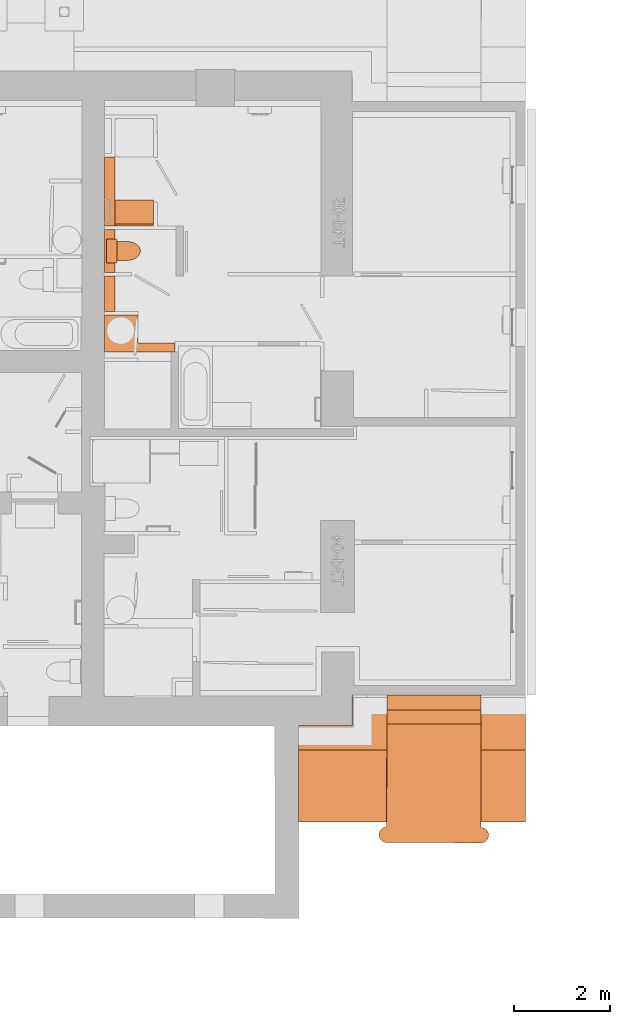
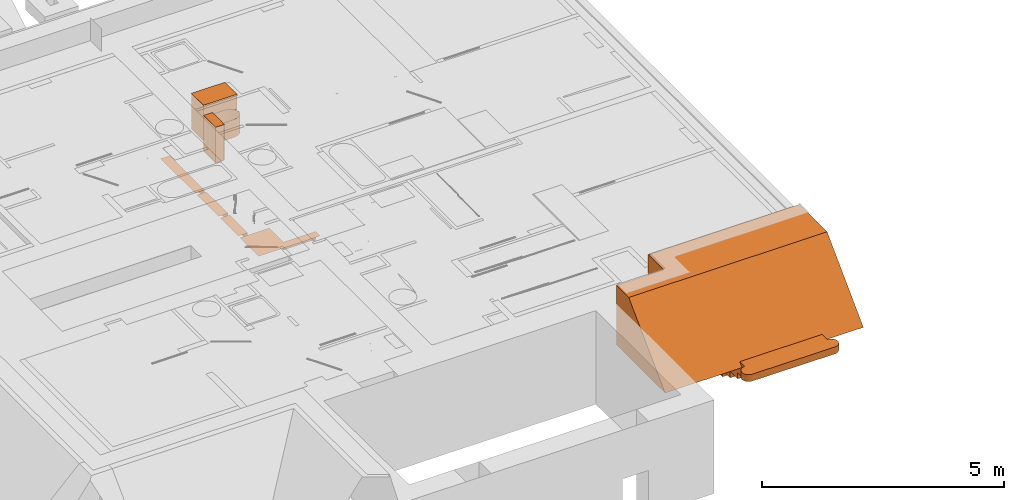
# Not in any storey, part 16 of 22: 5 proxies.
"""IFC4 model written with IfcOpenShell, lengths in metres."""

import ifcopenshell
import ifcopenshell.guid

model = None  # the IFC model being written
_history = None  # IfcOwnerHistory: only IFC2X3 demands one
_inside = {}  # id of a spatial element -> (the spatial element, [elements in it])
_under = {}  # id of a project, library or spatial element -> (it, [spatial elements below it])
_declared = {}  # id of a project -> (the project, [libraries it declares])
_typed = {}  # id of a type object -> (the type object, [elements of that type])
_made_of = {}  # id of a material, layer set ... -> (it, [elements and type objects made of it])


def new_model(schema):
    """Start an empty IFC model of exactly this schema.

    Asked for "IFC4X3", IfcOpenShell would pick the latest addendum, in which some entities
    have other attributes; the version numbers below select the first issue.
    IFC2X3 requires an IfcOwnerHistory on every rooted entity: one is made here for all.
    """
    global model, _history
    if schema == "IFC4X3":
        model = ifcopenshell.file(schema_version=(4, 3, 0, 0))
    else:
        model = ifcopenshell.file(schema=schema)
    _inside.clear()
    _under.clear()
    _declared.clear()
    _typed.clear()
    _made_of.clear()
    _history = None
    if model.schema == "IFC2X3":
        org = make("IfcOrganization", Name="unknown")
        user = make(
            "IfcPersonAndOrganization",
            ThePerson=make("IfcPerson", FamilyName="unknown"),
            TheOrganization=org,
        )
        app = make(
            "IfcApplication",
            ApplicationDeveloper=org,
            Version="unknown",
            ApplicationFullName="unknown",
            ApplicationIdentifier="unknown",
        )
        _history = make(
            "IfcOwnerHistory",
            OwningUser=user,
            OwningApplication=app,
            ChangeAction="ADDED",
            CreationDate=0,
        )
    return model


def make(cls, **values):
    """One entity of the class cls with the attributes given. An attribute that is None is left unset."""
    return model.create_entity(
        cls, **{name: value for name, value in values.items() if value is not None}
    )


def rooted(cls, **values):
    """An entity with a GlobalId (a new one), such as an element, a storey or a relation."""
    return make(cls, GlobalId=ifcopenshell.guid.new(), OwnerHistory=_history, **values)


def si_unit(unit_type, name, prefix=None):
    """IfcSIUnit, for example si_unit("LENGTHUNIT", "METRE", prefix="MILLI")."""
    return make("IfcSIUnit", UnitType=unit_type, Prefix=prefix, Name=name)


def assignment(units):
    """IfcUnitAssignment: the units of a project."""
    return None if units is None else make("IfcUnitAssignment", Units=units)


def point(xyz):
    """IfcCartesianPoint."""
    return None if xyz is None else make("IfcCartesianPoint", Coordinates=xyz)


def direction(xyz):
    """IfcDirection."""
    return None if xyz is None else make("IfcDirection", DirectionRatios=xyz)


def frame(location, z_axis=None, x_axis=None):
    """IfcAxis2Placement3D, a coordinate frame: its origin and axes. An axis left out is left unset."""
    return make(
        "IfcAxis2Placement3D",
        Location=point(location),
        Axis=direction(z_axis),
        RefDirection=direction(x_axis),
    )


def origin_with_axes():
    """The frame at (0, 0, 0) with the z axis (0, 0, 1) and the x axis (1, 0, 0) written out."""
    return frame((0.0, 0.0, 0.0), z_axis=(0.0, 0.0, 1.0), x_axis=(1.0, 0.0, 0.0))


def place(relative_to, where):
    """IfcLocalPlacement: puts the frame where relative to a parent placement (None: the world)."""
    return make(
        "IfcLocalPlacement", PlacementRelTo=relative_to, RelativePlacement=where
    )


def context(
    kind, dimensions, precision=None, world=None, true_north=None, identifier=None
):
    """IfcGeometricRepresentationContext, for example the 3D "Model" context."""
    return make(
        "IfcGeometricRepresentationContext",
        ContextIdentifier=identifier,
        ContextType=kind,
        CoordinateSpaceDimension=dimensions,
        Precision=precision,
        WorldCoordinateSystem=world,
        TrueNorth=true_north,
    )


def subcontext(parent, identifier, kind, view, scale=None):
    """IfcGeometricRepresentationSubContext, for example "Body" below "Model"."""
    return make(
        "IfcGeometricRepresentationSubContext",
        ContextIdentifier=identifier,
        ContextType=kind,
        ParentContext=parent,
        TargetScale=scale,
        TargetView=view,
    )


def project(units=None, contexts=None):
    """IfcProject with its units and contexts."""
    return rooted(
        "IfcProject",
        Name="project",
        RepresentationContexts=contexts,
        UnitsInContext=assignment(units),
    )


def faces_of(points, faces, orient=None, outer=None):
    """IfcFace entities. A face is a list of loops; a loop is a list of indices into points, from 0.

    orient and outer hold one flag for each loop. By default every Orientation is true, the
    first loop of a face is its IfcFaceOuterBound and the others are IfcFaceBound.
    """
    made = []
    for i, loops in enumerate(faces):
        bounds = []
        for j, loop in enumerate(loops):
            is_outer = j == 0 if outer is None else outer[i][j]
            bounds.append(
                make(
                    "IfcFaceOuterBound" if is_outer else "IfcFaceBound",
                    Bound=make("IfcPolyLoop", Polygon=[points[k] for k in loop]),
                    Orientation=True if orient is None else orient[i][j],
                )
            )
        made.append(make("IfcFace", Bounds=bounds))
    return made


def faceted_brep(points, faces, orient=None, outer=None, voids=None):
    """IfcFacetedBrep: a solid bounded by flat faces; with voids (closed shells), ...WithVoids."""
    shared = [point(p) for p in points]
    hull = make("IfcClosedShell", CfsFaces=faces_of(shared, faces, orient, outer))
    if voids is None:
        return make("IfcFacetedBrep", Outer=hull)
    return make(
        "IfcFacetedBrepWithVoids",
        Outer=hull,
        Voids=[
            make(cls, CfsFaces=faces_of(shared, fs, o, b)) for cls, fs, o, b in voids
        ],
    )


def shape(context_of_items, identifier, shape_type, items):
    """IfcShapeRepresentation: the items that make up one representation, for example the "Body"."""
    return make(
        "IfcShapeRepresentation",
        ContextOfItems=context_of_items,
        RepresentationIdentifier=identifier,
        RepresentationType=shape_type,
        Items=items,
    )


def made_of(thing, what):
    """Note that an element or type object is made of a material, layer set ...; save() writes the relation."""
    if what is not None:
        _made_of.setdefault(what.id(), (what, []))[1].append(thing)
    return thing


def element(
    cls,
    number,
    at=None,
    inside=None,
    cuts=None,
    type_object=None,
    material=None,
    context=None,
    identifier="Body",
    shape_type=None,
    held_by="IfcProductDefinitionShape",
    body=None,
    shapes=None,
    **own,
):
    """One element of the class cls, such as IfcWall. Its Tag is "e" and its number.

    at: its placement. inside: the storey or other place that contains it. cuts: it is an
    opening in that element (IfcRelVoidsElement). A single representation is given by context,
    identifier, shape_type and body (its items); several are given by shapes. held_by: the class
    of the entity that holds the representations. save() writes the other relations.
    """
    e = rooted(cls, Tag="e%d" % number, ObjectPlacement=at, **own)
    if body is not None:
        shapes = [shape(context, identifier, shape_type, body)]
    if shapes is not None:
        e.Representation = make(held_by, Representations=shapes)
    if inside is not None:
        _inside.setdefault(inside.id(), (inside, []))[1].append(e)
    if cuts is not None:
        rooted(
            "IfcRelVoidsElement", RelatingBuildingElement=cuts, RelatedOpeningElement=e
        )
    if type_object is not None:
        _typed.setdefault(type_object.id(), (type_object, []))[1].append(e)
    return made_of(e, material)


def aggregate(whole, parts):
    """IfcRelAggregates: a whole, such as a stair, and the parts it consists of."""
    return rooted("IfcRelAggregates", RelatingObject=whole, RelatedObjects=parts)


def save(model, path):
    """Write the relations noted so far, then the file.

    IfcRelAggregates (storeys below a building ...), IfcRelContainedInSpatialStructure (elements
    in a storey), IfcRelDefinesByType, IfcRelAssociatesMaterial and IfcRelDeclares: one each for
    every whole, place, type object, material and project.
    """
    for whole, parts in _under.values():
        aggregate(whole, parts)
    for where, things in _inside.values():
        rooted(
            "IfcRelContainedInSpatialStructure",
            RelatedElements=things,
            RelatingStructure=where,
        )
    for kind, things in _typed.values():
        rooted("IfcRelDefinesByType", RelatedObjects=things, RelatingType=kind)
    for what, things in _made_of.values():
        rooted("IfcRelAssociatesMaterial", RelatedObjects=things, RelatingMaterial=what)
    for by, libraries in _declared.values():
        rooted("IfcRelDeclares", RelatingContext=by, RelatedDefinitions=libraries)
    model.write(path)


model = new_model("IFC4")

# Units and contexts
model_context = context("Model", 3, precision=1e-05, world=origin_with_axes(), true_north=direction((1.0, 0.0)))
body_context = subcontext(model_context, "Body", "Model", "MODEL_VIEW")
ifc_project = project(units=[si_unit("LENGTHUNIT", "METRE"), si_unit("AREAUNIT", "SQUARE_METRE"), si_unit("VOLUMEUNIT", "CUBIC_METRE"), si_unit("MASSUNIT", "GRAM", prefix="KILO"), si_unit("TIMEUNIT", "SECOND"), si_unit("PLANEANGLEUNIT", "RADIAN"), si_unit("SOLIDANGLEUNIT", "STERADIAN")], contexts=[model_context])

# Proxies
placement = place(None, origin_with_axes())
element("IfcBuildingElementProxy", 1, at=placement, Name="Undefined", PredefinedType="NOTDEFINED", context=body_context, shape_type="Brep", body=[
    faceted_brep([(148.571793, 26.918678, 0.2), (148.793121, 26.918648, 0.2), (148.793121, 28.349401, 0.2), (148.571793, 28.349398, 0.2), (148.793121, 26.918648, 0.0), (148.793121, 28.349401, 0.0), (148.793106, 25.951332, 0.0), (148.793121, 26.844675, 0.0), (148.793121, 26.844675, 0.2), (148.793106, 25.951332, 0.2), (148.569702, 25.951332, 0.2), (148.569702, 26.844677, 0.2), (148.793121, 25.138596, 0.0), (148.793121, 25.877333, 0.0), (148.793121, 25.877333, 0.2), (148.793121, 25.138596, 0.2), (148.568497, 25.138597, 0.2), (148.568497, 25.877333, 0.2), (149.267227, 24.480442, 0.0), (149.267227, 25.064596, 0.0), (149.267227, 25.064596, 0.2), (149.267227, 24.480442, 0.2), (150.039825, 24.480442, 0.2), (148.569702, 25.064596, 0.2), (148.569702, 24.294191, 0.2), (150.039825, 24.294191, 0.2), (150.039825, 24.480442, 0.0)], [[[0, 1, 2, 3]], [[4, 5, 2, 1]], [[6, 7, 8, 9]], [[10, 9, 8, 11]], [[12, 13, 14, 15]], [[16, 15, 14, 17]], [[18, 19, 20, 21]], [[22, 21, 20, 23, 24, 25]], [[26, 18, 21, 22]]]),
])
element("IfcBuildingElementProxy", 2, at=placement, Name="Bloc WC", PredefinedType="NOTDEFINED", context=body_context, shape_type="AdvancedBrep", body=[
    faceted_brep([(148.610597, 26.646215, 2.31), (148.610597, 26.148244, 2.31), (148.610597, 26.146212, 2.31), (148.779578, 26.146206, 2.31), (148.81158, 26.146212, 2.31), (148.81158, 26.146382, 2.31), (148.812675, 26.146501, 2.31), (148.81376, 26.146686, 2.31), (148.814832, 26.146937, 2.31), (148.815887, 26.147253, 2.31), (148.816921, 26.147632, 2.31), (148.81793, 26.148074, 2.31), (148.818927, 26.148567, 2.31), (148.819896, 26.149113, 2.31), (148.820834, 26.149711, 2.31), (148.821737, 26.150359, 2.31), (148.822604, 26.151056, 2.31), (148.823432, 26.151799, 2.31), (148.824205, 26.152574, 2.31), (148.824931, 26.153393, 2.31), (148.825608, 26.154253, 2.31), (148.826235, 26.155151, 2.31), (148.826808, 26.156084, 2.31), (148.827327, 26.157048, 2.31), (148.82789, 26.158227, 2.31), (148.828377, 26.15944, 2.31), (148.828785, 26.160681, 2.31), (148.829112, 26.161946, 2.31), (148.829359, 26.163229, 2.31), (148.829613, 26.163229, 2.31), (148.829613, 26.166278, 2.31), (148.829613, 26.201241, 2.31), (148.829613, 26.590676, 2.31), (148.82961, 26.626233, 2.31), (148.82958, 26.627461, 2.31), (148.829472, 26.628684, 2.31), (148.829284, 26.629898, 2.31), (148.829019, 26.631097, 2.31), (148.828678, 26.632277, 2.31), (148.828261, 26.633432, 2.31), (148.827791, 26.634554, 2.31), (148.827252, 26.635645, 2.31), (148.826646, 26.6367, 2.31), (148.825974, 26.637715, 2.31), (148.82524, 26.638685, 2.31), (148.824446, 26.639607, 2.31), (148.823595, 26.640502, 2.31), (148.82269, 26.641342, 2.31), (148.821736, 26.642125, 2.31), (148.820735, 26.642848, 2.31), (148.819691, 26.643508, 2.31), (148.818608, 26.644099, 2.31), (148.817494, 26.644611, 2.31), (148.816352, 26.645056, 2.31), (148.815185, 26.645431, 2.31), (148.813998, 26.645735, 2.31), (148.812795, 26.645968, 2.31), (148.81158, 26.646215, 2.31), (148.779578, 26.646217, 2.31), (148.826988, 26.588475, 2.31), (148.818522, 26.588475, 2.31), (148.818522, 26.596941, 2.31), (148.818522, 26.613872, 2.31), (148.818522, 26.62234, 2.31), (148.826988, 26.62234, 2.31), (148.818522, 26.207506, 2.31), (148.826988, 26.207506, 2.31), (148.826988, 26.165176, 2.31), (148.818522, 26.165176, 2.31), (148.818522, 26.173641, 2.31), (148.818522, 26.19904, 2.31), (149.036172, 26.201647, 2.31), (149.051929, 26.201241, 2.31), (149.038797, 26.201494, 2.31), (148.610597, 26.148244, 1.41), (148.610597, 26.646215, 1.41), (148.81158, 26.646215, 1.41), (148.812795, 26.645968, 1.41), (148.813998, 26.645735, 1.41), (148.815185, 26.645431, 1.41), (148.816352, 26.645056, 1.41), (148.817494, 26.644611, 1.41), (148.818608, 26.644099, 1.41), (148.819691, 26.643508, 1.41), (148.820735, 26.642848, 1.41), (148.821736, 26.642125, 1.41), (148.82269, 26.641342, 1.41), (148.823595, 26.640502, 1.41), (148.824446, 26.639607, 1.41), (148.82524, 26.638685, 1.41), (148.825974, 26.637715, 1.41), (148.826646, 26.6367, 1.41), (148.827252, 26.635645, 1.41), (148.827791, 26.634554, 1.41), (148.828261, 26.633432, 1.41), (148.828678, 26.632277, 1.41), (148.829019, 26.631097, 1.41), (148.829284, 26.629898, 1.41), (148.829472, 26.628684, 1.41), (148.82958, 26.627461, 1.41), (148.82961, 26.626233, 1.41), (148.829613, 26.166278, 1.41), (148.829613, 26.163229, 1.41), (148.829359, 26.163229, 1.41), (148.829112, 26.161946, 1.41), (148.828785, 26.160681, 1.41), (148.828377, 26.15944, 1.41), (148.82789, 26.158227, 1.41), (148.827327, 26.157048, 1.41), (148.826808, 26.156084, 1.41), (148.826235, 26.155151, 1.41), (148.825608, 26.154253, 1.41), (148.824931, 26.153393, 1.41), (148.824205, 26.152574, 1.41), (148.823432, 26.151799, 1.41), (148.822604, 26.151056, 1.41), (148.821737, 26.150359, 1.41), (148.820834, 26.149711, 1.41), (148.819896, 26.149113, 1.41), (148.818927, 26.148567, 1.41), (148.81793, 26.148074, 1.41), (148.816921, 26.147632, 1.41), (148.815887, 26.147253, 1.41), (148.814832, 26.146937, 1.41), (148.81376, 26.146686, 1.41), (148.812675, 26.146501, 1.41), (148.81158, 26.146382, 1.41), (148.81158, 26.146212, 1.41), (148.610597, 26.146212, 1.41), (149.035433, 26.20169, 1.86), (149.03443, 26.201748, 1.86), (149.025685, 26.202257, 1.86), (149.025685, 26.201241, 1.86), (148.829613, 26.201241, 1.86), (148.829613, 26.590676, 1.86), (149.038299, 26.591186, 1.86), (149.038409, 26.591186, 1.86), (149.038514, 26.591186, 1.86), (149.038616, 26.591186, 1.86), (149.038814, 26.591186, 1.86), (149.039015, 26.591186, 1.86), (149.03912, 26.591186, 1.86), (149.03923, 26.591186, 1.86), (149.053285, 26.591186, 1.86), (149.070785, 26.59076, 1.86), (149.088241, 26.589436, 1.86), (149.105605, 26.587212, 1.86), (149.123522, 26.584098, 1.86), (149.141174, 26.580083, 1.86), (149.158599, 26.575178, 1.86), (149.169463, 26.571925, 1.86), (149.180132, 26.568082, 1.86), (149.190576, 26.563663, 1.86), (149.200763, 26.558679, 1.86), (149.201608, 26.558251, 1.86), (149.215329, 26.551153, 1.86), (149.228582, 26.543213, 1.86), (149.241314, 26.534463, 1.86), (149.241568, 26.534209, 1.86), (149.250346, 26.527497, 1.86), (149.258738, 26.520309, 1.86), (149.266715, 26.512663, 1.86), (149.274251, 26.504582, 1.86), (149.274585, 26.504239, 1.86), (149.281809, 26.495557, 1.86), (149.288546, 26.486492, 1.86), (149.294779, 26.477073, 1.86), (149.300489, 26.467328, 1.86), (149.300575, 26.467244, 1.86), (149.300829, 26.466906, 1.86), (149.303892, 26.46164, 1.86), (149.306657, 26.456212, 1.86), (149.309112, 26.450638, 1.86), (149.31125, 26.444934, 1.86), (149.313064, 26.439119, 1.86), (149.314548, 26.433212, 1.86), (149.316331, 26.426008, 1.86), (149.317728, 26.418719, 1.86), (149.31873, 26.411366, 1.86), (149.319335, 26.40397, 1.86), (149.319541, 26.396551, 1.86), (149.319539, 26.395873, 1.86), (149.319335, 26.388455, 1.86), (149.31873, 26.381059, 1.86), (149.317728, 26.373707, 1.86), (149.316331, 26.366419, 1.86), (149.314543, 26.359216, 1.86), (149.313062, 26.353321, 1.86), (149.311249, 26.347519, 1.86), (149.309112, 26.341829, 1.86), (149.306658, 26.336268, 1.86), (149.303895, 26.330854, 1.86), (149.30083, 26.325605, 1.86), (149.300575, 26.325267, 1.86), (149.300491, 26.325099, 1.86), (149.294789, 26.315369, 1.86), (149.288561, 26.305966, 1.86), (149.281821, 26.296924, 1.86), (149.274589, 26.288269, 1.86), (149.274247, 26.287932, 1.86), (149.266714, 26.279829, 1.86), (149.258739, 26.27216, 1.86), (149.250348, 26.264948, 1.86), (149.241567, 26.258217, 1.86), (149.241314, 26.258048, 1.86), (149.228594, 26.249279, 1.86), (149.215343, 26.241334, 1.86), (149.201611, 26.234253, 1.86), (149.200761, 26.233835, 1.86), (149.190576, 26.22883, 1.86), (149.180134, 26.224386, 1.86), (149.169465, 26.220519, 1.86), (149.158601, 26.217241, 1.86), (149.141173, 26.212369, 1.86), (149.12352, 26.208387, 1.86), (149.105689, 26.205304, 1.86), (149.105604, 26.20522, 1.86), (149.088238, 26.203021, 1.86), (149.070783, 26.201692, 1.86), (149.053285, 26.201238, 1.86), (149.052565, 26.20169, 1.86), (149.052606, 26.201241, 1.86), (149.051929, 26.201241, 1.86), (149.036172, 26.201647, 1.86), (149.035433, 26.20169, 2.31), (149.03443, 26.20169, 2.31), (149.025685, 26.202257, 2.31), (149.025685, 26.201241, 2.31), (149.038299, 26.591186, 2.31), (149.038409, 26.591186, 2.31), (149.038514, 26.591186, 2.31), (149.038616, 26.591186, 2.31), (149.038814, 26.591186, 2.31), (149.039015, 26.591186, 2.31), (149.03912, 26.591186, 2.31), (149.03923, 26.591186, 2.31), (149.051929, 26.591186, 2.31), (149.052606, 26.591186, 2.31), (149.053285, 26.591186, 2.31), (149.070785, 26.59076, 2.31), (149.088241, 26.589436, 2.31), (149.105605, 26.587212, 2.31), (149.123522, 26.584098, 2.31), (149.141174, 26.580083, 2.31), (149.158599, 26.575178, 2.31), (149.169463, 26.571925, 2.31), (149.180132, 26.568082, 2.31), (149.190576, 26.563663, 2.31), (149.200763, 26.558679, 2.31), (149.201608, 26.558251, 2.31), (149.215329, 26.551153, 2.31), (149.228582, 26.543213, 2.31), (149.241314, 26.534463, 2.31), (149.241568, 26.534209, 2.31), (149.250346, 26.527497, 2.31), (149.258738, 26.520309, 2.31), (149.266715, 26.512663, 2.31), (149.274251, 26.504582, 2.31), (149.274585, 26.504239, 2.31), (149.281809, 26.495557, 2.31), (149.288546, 26.486492, 2.31), (149.294779, 26.477073, 2.31), (149.300489, 26.467328, 2.31), (149.300575, 26.467244, 2.31), (149.300829, 26.466906, 2.31), (149.303892, 26.46164, 2.31), (149.306657, 26.456212, 2.31), (149.309112, 26.450638, 2.31), (149.31125, 26.444934, 2.31), (149.313064, 26.439119, 2.31), (149.314548, 26.433212, 2.31), (149.316331, 26.426008, 2.31), (149.317728, 26.418719, 2.31), (149.31873, 26.411366, 2.31), (149.319335, 26.40397, 2.31), (149.319541, 26.396551, 2.31), (149.319539, 26.395873, 2.31), (149.319335, 26.388455, 2.31), (149.31873, 26.381059, 2.31), (149.317728, 26.373707, 2.31), (149.316331, 26.366419, 2.31), (149.314543, 26.359216, 2.31), (149.313062, 26.353321, 2.31), (149.311249, 26.347519, 2.31), (149.309112, 26.341829, 2.31), (149.306658, 26.336268, 2.31), (149.303895, 26.330854, 2.31), (149.30083, 26.325605, 2.31), (149.300575, 26.325267, 2.31), (149.300491, 26.325099, 2.31), (149.294789, 26.315369, 2.31), (149.288561, 26.305966, 2.31), (149.281821, 26.296924, 2.31), (149.274589, 26.288269, 2.31), (149.274247, 26.287932, 2.31), (149.266714, 26.279829, 2.31), (149.258739, 26.27216, 2.31), (149.250348, 26.264948, 2.31), (149.241567, 26.258217, 2.31), (149.241314, 26.258048, 2.31), (149.228594, 26.249279, 2.31), (149.215343, 26.241334, 2.31), (149.201611, 26.234253, 2.31), (149.200761, 26.233835, 2.31), (149.190576, 26.22883, 2.31), (149.180134, 26.224386, 2.31), (149.169465, 26.220519, 2.31), (149.158601, 26.217241, 2.31), (149.141173, 26.212369, 2.31), (149.12352, 26.208387, 2.31), (149.105689, 26.205304, 2.31), (149.105604, 26.20522, 2.31), (149.088238, 26.203021, 2.31), (149.070783, 26.201692, 2.31), (149.053285, 26.201238, 2.31), (149.052565, 26.201241, 2.31), (149.052565, 26.20169, 2.31)], [[[0, 1, 2, 3, 4, 5, 6, 7, 8, 9, 10, 11, 12, 13, 14, 15, 16, 17, 18, 19, 20, 21, 22, 23, 24, 25, 26, 27, 28, 29, 30, 31, 32, 33, 34, 35, 36, 37, 38, 39, 40, 41, 42, 43, 44, 45, 46, 47, 48, 49, 50, 51, 52, 53, 54, 55, 56, 57, 58], [59, 60, 61, 62, 63, 64], [65, 66, 67, 68, 69, 70]], [[71, 72, 73]], [[74, 75, 76, 77, 78, 79, 80, 81, 82, 83, 84, 85, 86, 87, 88, 89, 90, 91, 92, 93, 94, 95, 96, 97, 98, 99, 100, 101, 102, 103, 104, 105, 106, 107, 108, 109, 110, 111, 112, 113, 114, 115, 116, 117, 118, 119, 120, 121, 122, 123, 124, 125, 126, 127, 128]], [[1, 0, 75, 74]], [[0, 58, 57, 76, 75]], [[57, 56, 77, 76]], [[56, 55, 78, 77]], [[55, 54, 79, 78]], [[54, 53, 80, 79]], [[53, 52, 81, 80]], [[52, 51, 82, 81]], [[51, 50, 83, 82]], [[50, 49, 84, 83]], [[49, 48, 85, 84]], [[48, 47, 86, 85]], [[47, 46, 87, 86]], [[46, 45, 88, 87]], [[45, 44, 89, 88]], [[44, 43, 90, 89]], [[43, 42, 91, 90]], [[42, 41, 92, 91]], [[41, 40, 93, 92]], [[40, 39, 94, 93]], [[39, 38, 95, 94]], [[38, 37, 96, 95]], [[37, 36, 97, 96]], [[36, 35, 98, 97]], [[35, 34, 99, 98]], [[34, 33, 100, 99]], [[33, 32, 31, 30, 101, 100]], [[30, 29, 102, 101]], [[29, 28, 103, 102]], [[28, 27, 104, 103]], [[27, 26, 105, 104]], [[26, 25, 106, 105]], [[25, 24, 107, 106]], [[24, 23, 108, 107]], [[23, 22, 109, 108]], [[22, 21, 110, 109]], [[21, 20, 111, 110]], [[20, 19, 112, 111]], [[19, 18, 113, 112]], [[18, 17, 114, 113]], [[17, 16, 115, 114]], [[16, 15, 116, 115]], [[15, 14, 117, 116]], [[14, 13, 118, 117]], [[13, 12, 119, 118]], [[12, 11, 120, 119]], [[11, 10, 121, 120]], [[10, 9, 122, 121]], [[9, 8, 123, 122]], [[8, 7, 124, 123]], [[7, 6, 125, 124]], [[6, 5, 126, 125]], [[5, 4, 127, 126]], [[4, 3, 2, 128, 127]], [[2, 1, 74, 128]], [[60, 59, 64, 63, 62, 61]], [[66, 65, 70, 69, 68, 67]], [[129, 130, 131, 132, 133, 134, 135, 136, 137, 138, 139, 140, 141, 142, 143, 144, 145, 146, 147, 148, 149, 150, 151, 152, 153, 154, 155, 156, 157, 158, 159, 160, 161, 162, 163, 164, 165, 166, 167, 168, 169, 170, 171, 172, 173, 174, 175, 176, 177, 178, 179, 180, 181, 182, 183, 184, 185, 186, 187, 188, 189, 190, 191, 192, 193, 194, 195, 196, 197, 198, 199, 200, 201, 202, 203, 204, 205, 206, 207, 208, 209, 210, 211, 212, 213, 214, 215, 216, 217, 218, 219, 220, 221, 222, 223]], [[224, 225, 130, 129]], [[225, 226, 131, 130]], [[226, 227, 132, 131]], [[227, 31, 133, 132]], [[31, 32, 134, 133]], [[32, 228, 135, 134]], [[228, 229, 136, 135]], [[229, 230, 137, 136]], [[230, 231, 138, 137]], [[231, 232, 139, 138]], [[232, 233, 140, 139]], [[233, 234, 141, 140]], [[234, 235, 142, 141]], [[235, 236, 237, 238, 143, 142]], [[238, 239, 144, 143]], [[239, 240, 145, 144]], [[240, 241, 146, 145]], [[241, 242, 147, 146]], [[242, 243, 148, 147]], [[243, 244, 149, 148]], [[244, 245, 150, 149]], [[245, 246, 151, 150]], [[246, 247, 152, 151]], [[247, 248, 153, 152]], [[248, 249, 154, 153]], [[249, 250, 155, 154]], [[250, 251, 156, 155]], [[251, 252, 157, 156]], [[252, 253, 158, 157]], [[253, 254, 159, 158]], [[254, 255, 160, 159]], [[255, 256, 161, 160]], [[256, 257, 162, 161]], [[257, 258, 163, 162]], [[258, 259, 164, 163]], [[259, 260, 165, 164]], [[260, 261, 166, 165]], [[261, 262, 167, 166]], [[262, 263, 168, 167]], [[263, 264, 169, 168]], [[264, 265, 170, 169]], [[265, 266, 171, 170]], [[266, 267, 172, 171]], [[267, 268, 173, 172]], [[268, 269, 174, 173]], [[269, 270, 175, 174]], [[270, 271, 176, 175]], [[271, 272, 177, 176]], [[272, 273, 178, 177]], [[273, 274, 179, 178]], [[274, 275, 180, 179]], [[275, 276, 181, 180]], [[276, 277, 182, 181]], [[277, 278, 183, 182]], [[278, 279, 184, 183]], [[279, 280, 185, 184]], [[280, 281, 186, 185]], [[281, 282, 187, 186]], [[282, 283, 188, 187]], [[283, 284, 189, 188]], [[284, 285, 190, 189]], [[285, 286, 191, 190]], [[286, 287, 192, 191]], [[287, 288, 193, 192]], [[288, 289, 194, 193]], [[289, 290, 195, 194]], [[290, 291, 196, 195]], [[291, 292, 197, 196]], [[292, 293, 198, 197]], [[293, 294, 199, 198]], [[294, 295, 200, 199]], [[295, 296, 201, 200]], [[296, 297, 202, 201]], [[297, 298, 203, 202]], [[298, 299, 204, 203]], [[299, 300, 205, 204]], [[300, 301, 206, 205]], [[301, 302, 207, 206]], [[302, 303, 208, 207]], [[303, 304, 209, 208]], [[304, 305, 210, 209]], [[305, 306, 211, 210]], [[306, 307, 212, 211]], [[307, 308, 213, 212]], [[308, 309, 214, 213]], [[309, 310, 215, 214]], [[310, 311, 216, 215]], [[311, 312, 217, 216]], [[312, 313, 218, 217]], [[313, 314, 219, 218]], [[314, 315, 221, 219]], [[315, 316, 220, 221]], [[316, 315, 221, 220]], [[315, 72, 222, 221]], [[72, 71, 223, 222]], [[71, 224, 129, 223]]]),
])
element("IfcBuildingElementProxy", 3, at=placement, Name="Bloc Vasque", PredefinedType="NOTDEFINED", context=body_context, shape_type="AdvancedBrep", body=[
    faceted_brep([(148.791428, 26.960979, 1.41), (149.595697, 26.960979, 1.41), (149.595697, 26.944046, 1.41), (148.791428, 26.944046, 1.41), (149.595697, 26.918649, 1.41), (148.791428, 26.918649, 1.41), (149.595697, 26.944046, 1.39), (149.595697, 26.918649, 1.39), (148.791428, 26.918649, 1.39), (148.791428, 26.944046, 1.39), (149.595697, 26.960979, 2.31), (148.791428, 26.960979, 2.31), (148.791428, 27.460472, 2.31), (149.595697, 27.460472, 2.31), (148.791428, 27.460472, 1.41), (149.595697, 27.460472, 1.41), (149.443123, 27.208474, 1.41), (149.434602, 27.260248, 1.41), (149.40962, 27.308494, 1.41), (149.36988, 27.349924, 1.41), (149.31809, 27.381714, 1.41), (149.257779, 27.401698, 1.41), (149.246201, 27.402918, 1.41), (149.242488, 27.403966, 1.41), (149.193057, 27.408514, 1.41), (149.143626, 27.403966, 1.41), (149.139913, 27.402918, 1.41), (149.128335, 27.401698, 1.41), (149.068024, 27.381714, 1.41), (149.016234, 27.349924, 1.41), (148.976493, 27.308494, 1.41), (148.951512, 27.260249, 1.41), (148.942991, 27.208474, 1.41), (148.951512, 27.1567, 1.41), (148.976493, 27.108454, 1.41), (149.016234, 27.067025, 1.41), (149.068024, 27.035235, 1.41), (149.128335, 27.01525, 1.41), (149.193057, 27.008434, 1.41), (149.257779, 27.01525, 1.41), (149.31809, 27.035234, 1.41), (149.36988, 27.067024, 1.41), (149.40962, 27.108454, 1.41), (149.434602, 27.1567, 1.41), (148.977943, 27.302267, 1.41), (149.095854, 27.390474, 1.41), (149.051347, 27.368491, 1.41), (149.011598, 27.338756, 1.41), (149.29026, 27.390474, 1.41), (149.408171, 27.302266, 1.41), (149.374515, 27.338756, 1.41), (149.334767, 27.368491, 1.41), (148.942991, 27.208474, 1.536), (148.951512, 27.260249, 1.536), (148.977943, 27.302267, 1.536), (149.011598, 27.338756, 1.536), (149.051347, 27.368491, 1.536), (149.095854, 27.390474, 1.536), (149.139913, 27.402918, 1.536), (149.193057, 27.408514, 1.536), (149.246201, 27.402918, 1.536), (149.29026, 27.390474, 1.536), (149.334767, 27.368491, 1.536), (149.374515, 27.338756, 1.536), (149.408171, 27.302266, 1.536), (149.434602, 27.260248, 1.536), (149.443123, 27.208474, 1.536), (149.434602, 27.1567, 1.536), (149.40962, 27.108454, 1.536), (149.36988, 27.067024, 1.536), (149.31809, 27.035234, 1.536), (149.257779, 27.01525, 1.536), (149.193057, 27.008434, 1.536), (149.128335, 27.01525, 1.536), (149.068024, 27.035235, 1.536), (149.016234, 27.067025, 1.536), (148.976493, 27.108454, 1.536), (148.951512, 27.1567, 1.536)], [[[0, 1, 2, 3]], [[4, 2, 3, 5]], [[6, 7, 8, 9]], [[2, 4, 7, 6]], [[4, 5, 8, 7]], [[5, 3, 9, 8]], [[3, 2, 6, 9]], [[10, 11, 12, 13]], [[1, 0, 11, 10]], [[0, 14, 12, 11]], [[14, 15, 13, 12]], [[15, 1, 10, 13]], [[14, 15, 1, 0], [16, 17, 18, 19, 20, 21, 22, 23, 24, 25, 26, 27, 28, 29, 30, 31, 32, 33, 34, 35, 36, 37, 38, 39, 40, 41, 42, 43]], [[44, 31, 30, 29, 28, 27, 26, 45, 46, 47]], [[22, 24, 23]], [[24, 26, 25]], [[48, 22, 21, 20, 19, 18, 17, 49, 50, 51]], [[52, 53, 54, 55, 56, 57, 58, 59, 60, 61, 62, 63, 64, 65, 66, 67, 68, 69, 70, 71, 72, 73, 74, 75, 76, 77]], [[32, 31, 53, 52]], [[31, 44, 54, 53]], [[44, 47, 55, 54]], [[47, 46, 56, 55]], [[46, 45, 57, 56]], [[45, 26, 58, 57]], [[26, 24, 59, 58]], [[24, 22, 60, 59]], [[22, 48, 61, 60]], [[48, 51, 62, 61]], [[51, 50, 63, 62]], [[50, 49, 64, 63]], [[49, 17, 65, 64]], [[17, 16, 66, 65]], [[16, 43, 67, 66]], [[43, 42, 68, 67]], [[42, 41, 69, 68]], [[41, 40, 70, 69]], [[40, 39, 71, 70]], [[39, 38, 72, 71]], [[38, 37, 73, 72]], [[37, 36, 74, 73]], [[36, 35, 75, 74]], [[35, 34, 76, 75]], [[34, 33, 77, 76]], [[33, 32, 52, 77]]]),
])
element("IfcBuildingElementProxy", 4, at=placement, Name="Undefined", PredefinedType="NOTDEFINED", context=body_context, shape_type="Brep", body=[
    faceted_brep([(156.411331, 17.148932, -0.25), (156.411295, 16.835051, -0.25), (154.451555, 16.842933, -0.25), (154.452405, 17.148932, -0.25), (155.429162, 17.148932, -0.25), (155.429276, 17.148932, -0.25), (156.411331, 17.148932, 1.044), (156.411295, 16.835051, 1.044), (156.411295, 16.835051, -0.09), (154.451555, 16.842933, -0.09), (154.451555, 16.842933, 1.044), (154.452405, 17.148932, 1.044), (154.452422, 17.148932, 0.87), (155.429162, 17.148932, 1.044), (155.429276, 17.148932, 1.044), (156.411152, 17.148932, 1.044), (156.411259, 16.528799, -0.09), (154.450706, 16.536731, -0.09), (156.411259, 16.528799, 0.07), (154.450706, 16.536731, 0.07), (154.450706, 16.536731, 1.044), (156.411259, 16.528799, 1.044), (156.411224, 16.222598, 0.07), (154.449906, 16.230534, 0.07), (156.411224, 16.222598, 0.23), (154.449906, 16.230534, 0.23), (154.449906, 16.230534, 1.044), (156.411224, 16.222598, 1.044), (156.411188, 15.916393, 0.23), (154.449057, 15.924285, 0.23), (156.411188, 15.916393, 0.39), (154.449057, 15.924285, 0.39), (154.449057, 15.924285, 1.044), (156.411188, 15.916393, 1.044), (156.411152, 15.610145, 0.39), (154.448207, 15.618083, 0.39), (156.411152, 15.610145, 0.55), (154.448207, 15.618083, 0.55), (154.448207, 15.618083, 1.044), (156.411152, 15.610145, 1.044), (156.411117, 15.30394, 0.55), (154.447356, 15.311839, 0.55), (156.411117, 15.30394, 0.87), (156.411117, 15.30394, 0.71), (154.447356, 15.311839, 0.71), (154.447356, 15.311839, 0.87), (154.448622, 15.311834, 0.87), (154.447356, 15.311839, 1.044), (156.411117, 15.30394, 1.044), (156.411117, 15.005839, 0.71), (154.447356, 15.005839, 0.71), (156.411117, 15.005839, 0.87), (154.447989, 15.005839, 0.87), (154.447356, 15.005839, 0.87), (156.411117, 14.699839, 0.87), (154.447356, 14.699839, 0.87), (154.447356, 14.699839, 1.03), (156.411117, 14.699839, 1.03), (154.447356, 14.707737, 1.03), (156.411117, 15.005839, 1.03), (154.447356, 15.005839, 1.03), (154.446555, 14.401536, 1.03), (156.411081, 14.393586, 1.03), (156.565799, 14.196292, 1.19), (156.565799, 14.196292, 1.364), (156.560606, 14.179743, 1.364), (156.560606, 14.179743, 1.19), (156.465418, 14.08453, 1.19), (156.465418, 14.08453, 1.364), (156.44887, 14.079333, 1.364), (156.44887, 14.079333, 1.19), (154.39625, 14.090667, 1.19), (154.39625, 14.090667, 1.364), (154.369022, 14.102678, 1.364), (154.369022, 14.102678, 1.19), (156.411117, 14.699839, 1.044), (156.411117, 14.699839, 1.364), (156.411081, 14.393586, 1.364), (156.411081, 14.393586, 1.19), (154.295324, 14.191617, 1.19), (154.295324, 14.191617, 1.364), (154.288538, 14.22124, 1.364), (154.288538, 14.22124, 1.19), (154.29245, 14.282794, 1.19), (154.29245, 14.282794, 1.364), (154.302774, 14.310873, 1.364), (154.302774, 14.310873, 1.19), (156.411259, 15.924697, 1.364), (156.411278, 16.54483, 1.364), (156.411152, 15.610145, 1.364), (156.411152, 15.006044, 1.364), (156.411188, 15.312291, 1.364), (156.411224, 15.618496, 1.364), (154.415681, 14.398516, 1.19), (154.446555, 14.401536, 1.19), (156.441973, 14.390597, 1.19), (156.470856, 14.382005, 1.19), (156.497162, 14.368379, 1.19), (156.520325, 14.350285, 1.19), (156.539777, 14.328291, 1.19), (156.554952, 14.302963, 1.19), (156.565282, 14.274869, 1.19), (156.570201, 14.244576, 1.19), (156.569197, 14.213302, 1.19), (156.553676, 14.163842, 1.19), (156.545089, 14.148772, 1.19), (156.534942, 14.134704, 1.19), (156.523352, 14.1218, 1.19), (156.51045, 14.110206, 1.19), (156.496385, 14.100056, 1.19), (156.481317, 14.091464, 1.19), (156.431861, 14.075931, 1.19), (156.41103, 14.074587, 1.19), (155.429219, 14.078588, 1.19), (154.446807, 14.082536, 1.19), (154.425866, 14.083879, 1.19), (154.344748, 14.119345, 1.19), (154.323996, 14.140102, 1.19), (154.307332, 14.164382, 1.19), (154.287535, 14.252518, 1.19), (154.317938, 14.336189, 1.19), (154.337378, 14.358177, 1.19), (154.360526, 14.376271, 1.19), (154.386816, 14.389906, 1.19), (156.441973, 14.390597, 1.364), (156.569197, 14.213302, 1.364), (156.534942, 14.134704, 1.364), (156.523352, 14.1218, 1.364), (156.545089, 14.148772, 1.364), (156.481317, 14.091464, 1.364), (156.431861, 14.075931, 1.364), (156.41103, 14.074587, 1.364), (154.344748, 14.119345, 1.364), (154.323996, 14.140102, 1.364), (154.307332, 14.164382, 1.364), (154.287535, 14.252518, 1.364), (156.496385, 14.100056, 1.364), (154.337378, 14.358177, 1.364), (154.360526, 14.376271, 1.364), (154.386816, 14.389906, 1.364), (154.415681, 14.398516, 1.364), (155.429219, 14.078588, 1.364), (154.446807, 14.082536, 1.364), (156.553676, 14.163842, 1.364), (156.51045, 14.110206, 1.364), (154.425866, 14.083879, 1.364), (154.317938, 14.336189, 1.364), (156.470856, 14.382005, 1.364), (156.497162, 14.368379, 1.364), (156.520325, 14.350285, 1.364), (156.539777, 14.328291, 1.364), (154.446555, 14.401536, 1.364), (156.554952, 14.302963, 1.364), (156.565282, 14.274869, 1.364), (156.570201, 14.244576, 1.364), (156.411295, 16.230949, 1.364), (156.411117, 15.005839, 1.044), (154.447356, 14.707737, 1.044), (154.447356, 14.699839, 1.044), (154.447356, 14.707737, 1.364), (154.452405, 17.148932, 1.364), (156.411117, 15.30394, 1.364), (156.411117, 15.005839, 1.364), (156.411331, 17.148932, 1.364), (155.429276, 16.54483, 1.364), (155.429162, 16.54483, 1.364), (154.452405, 16.54483, 1.364), (154.451555, 16.238831, 1.364), (154.450706, 15.93263, 1.364), (154.449906, 15.626432, 1.364), (154.449057, 15.320183, 1.364), (154.448207, 15.013982, 1.364)], [[[0, 1, 2, 3, 4, 5]], [[0, 6, 7, 8, 1]], [[1, 8, 9, 2]], [[9, 10, 11, 12, 3, 2]], [[12, 11, 13, 4, 3]], [[4, 13, 14, 5]], [[5, 14, 15, 6, 0]], [[16, 17, 9, 8]], [[16, 18, 19, 17]], [[19, 20, 10, 9, 17]], [[8, 7, 21, 18, 16]], [[22, 23, 19, 18]], [[22, 24, 25, 23]], [[25, 26, 20, 19, 23]], [[18, 21, 27, 24, 22]], [[28, 29, 25, 24]], [[28, 30, 31, 29]], [[31, 32, 26, 25, 29]], [[24, 27, 33, 30, 28]], [[34, 35, 31, 30]], [[34, 36, 37, 35]], [[37, 38, 32, 31, 35]], [[30, 33, 39, 36, 34]], [[40, 41, 37, 36]], [[42, 43, 44, 45, 46]], [[45, 47, 38, 37, 41, 44]], [[36, 39, 48, 42, 43, 40]], [[49, 50, 44, 43]], [[50, 49, 51, 52, 53]], [[49, 43, 42, 51]], [[41, 44, 43, 40]], [[54, 55, 52, 51]], [[56, 57, 58]], [[54, 51, 59, 57]], [[52, 53, 60, 59, 51]], [[53, 55, 56, 58, 60]], [[55, 54, 57, 56]], [[61, 56, 57, 62]], [[63, 64, 65, 66]], [[67, 68, 69, 70]], [[71, 72, 73, 74]], [[75, 76, 77, 78, 62, 57]], [[79, 80, 81, 82]], [[83, 84, 85, 86]], [[87, 88, 89, 90, 91, 92]], [[93, 94, 78, 95, 96, 97, 98, 99, 100, 101, 102, 103, 63, 66, 104, 105, 106, 107, 108, 109, 110, 67, 70, 111, 112, 113, 114, 115, 71, 74, 116, 117, 118, 79, 82, 119, 83, 86, 120, 121, 122, 123]], [[78, 77, 124, 95]], [[103, 125, 64, 63]], [[106, 126, 127, 107]], [[62, 78, 94, 61]], [[105, 128, 126, 106]], [[110, 129, 68, 67]], [[111, 130, 131, 112]], [[116, 132, 133, 117]], [[118, 134, 80, 79]], [[82, 81, 135, 119]], [[109, 136, 129, 110]], [[121, 137, 138, 122]], [[123, 139, 140, 93]], [[112, 131, 141, 142, 114, 113]], [[117, 133, 134, 118]], [[66, 65, 143, 104]], [[107, 127, 144, 108]], [[70, 69, 130, 111]], [[114, 142, 145, 115]], [[74, 73, 132, 116]], [[120, 146, 137, 121]], [[96, 147, 148, 97]], [[122, 138, 139, 123]], [[98, 149, 150, 99]], [[93, 140, 151, 94]], [[100, 152, 153, 101]], [[104, 143, 128, 105]], [[108, 144, 136, 109]], [[101, 153, 154, 102]], [[97, 148, 149, 98]], [[119, 135, 84, 83]], [[115, 145, 72, 71]], [[86, 85, 146, 120]], [[102, 154, 125, 103]], [[95, 124, 147, 96]], [[99, 150, 152, 100]], [[60, 58, 57, 59]], [[88, 87, 155]], [[57, 59, 156, 75]], [[53, 52, 55]], [[42, 46, 52, 51]], [[46, 52, 55, 56, 58, 157, 11, 12]], [[58, 56, 158, 157]], [[159, 157, 158, 56, 61, 94, 151]], [[11, 157, 159, 160]], [[53, 52, 46, 45]], [[44, 50, 53, 45]], [[90, 89, 161, 162, 76]], [[89, 39, 33, 27, 21, 7, 6, 163, 88]], [[15, 39, 33, 27, 21, 7, 6]], [[39, 89, 161, 48]], [[48, 156, 59, 51, 42]], [[162, 76, 75, 156]], [[77, 76, 162, 161, 89, 88, 164, 165, 166, 167, 168, 169, 170, 171, 159, 151, 140, 139, 138, 137, 146, 85, 84, 135, 81, 80, 134, 133, 132, 73, 72, 145, 142, 141, 131, 130, 69, 68, 129, 136, 144, 127, 126, 128, 143, 65, 64, 125, 154, 153, 152, 150, 149, 148, 147, 124]], [[161, 162, 156, 48]]]),
])
element("IfcBuildingElementProxy", 5, at=placement, Name="Undefined", PredefinedType="NOTDEFINED", context=body_context, shape_type="Brep", body=[
    faceted_brep([(153.728799, 16.513879, 1.271), (153.728799, 16.513879, 2.771), (153.728799, 17.149048, 2.771), (153.728799, 17.149048, 1.271), (157.340962, 17.149048, 2.771), (157.340962, 17.149048, 1.271), (157.340962, 16.00847, 2.771), (157.340962, 14.50847, 1.271), (152.611246, 16.00847, 2.771), (152.611246, 16.513879, 2.771), (152.611246, 14.50847, 1.271), (152.611246, 16.513879, 1.271)], [[[0, 1, 2, 3]], [[2, 4, 5, 3]], [[4, 6, 7, 5]], [[8, 6, 4, 2, 1, 9]], [[10, 7, 6, 8]], [[11, 9, 1, 0]], [[11, 10, 8, 9]], [[5, 7, 10, 11, 0, 3]]]),
])

save(model, "model.ifc")
